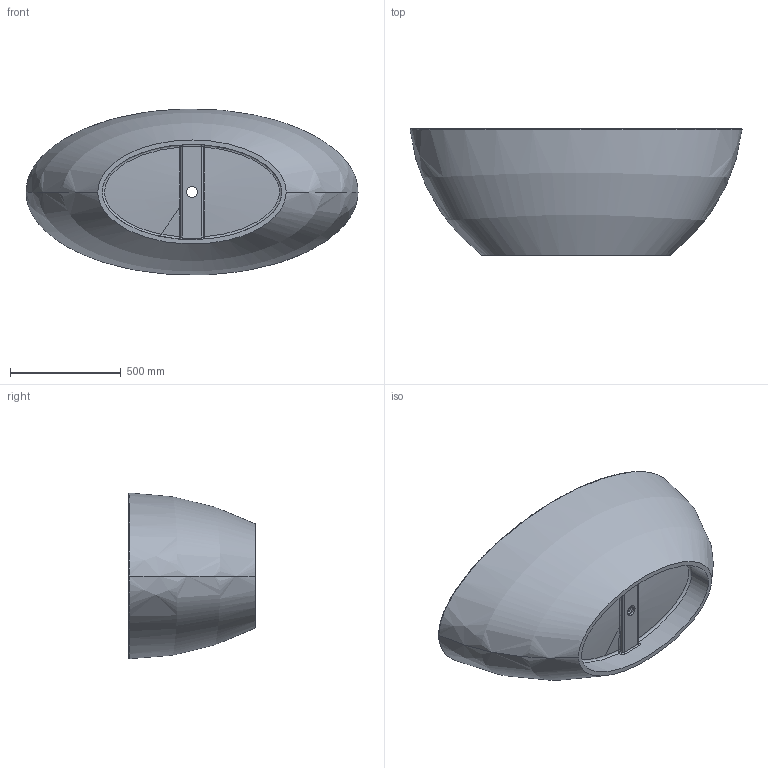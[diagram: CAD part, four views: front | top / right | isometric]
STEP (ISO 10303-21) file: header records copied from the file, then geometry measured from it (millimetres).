
FILE_DESCRIPTION (( 'STEP AP203' ), '1' );
FILE_NAME ('TC-S55-b.STEP', '2014-08-12T13:49:59', ( 'Sky123.Org' ), ( 'Sky123.Org' ), 'SwSTEP 2.0', 'SolidWorks 2014', '' );
FILE_SCHEMA (( 'CONFIG_CONTROL_DESIGN' ));
Length unit declared in the file: millimetre
Products named in the file (1): TC-S55-b
Bounding box: 1499.23 x 570 x 749.35 mm (x, y, z)
Volume: 69315800.2 mm3; surface area: 4455875.8 mm2
Topology: 1 solids, 1 shells, 79 faces, 212 edges, 132 vertices
Faces by surface type: bspline 45, cylinder 16, plane 16, cone 2
Entity records: 13396 total; most frequent: CARTESIAN_POINT 11725, ORIENTED_EDGE 416, DIRECTION 213, EDGE_CURVE 208, VERTEX_POINT 132, B_SPLINE_CURVE_WITH_KNOTS 102, EDGE_LOOP 84, AXIS2_PLACEMENT_3D 81
